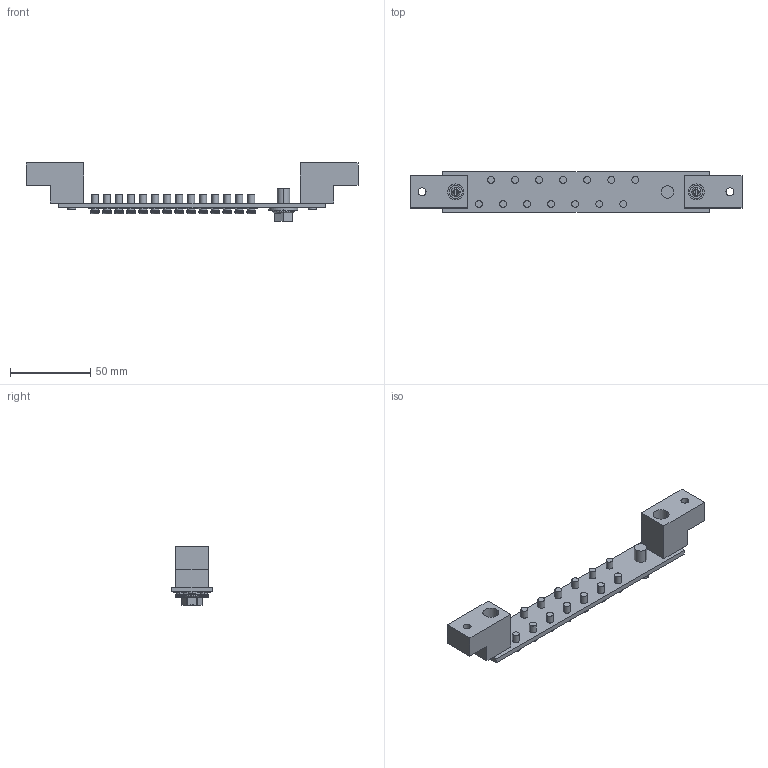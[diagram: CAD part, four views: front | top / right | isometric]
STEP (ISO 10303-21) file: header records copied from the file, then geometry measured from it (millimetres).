
FILE_DESCRIPTION(('Creo Elements/Direct Modeling STEP Export'),'2;1');
FILE_NAME('15N.stp','2025-07-23T16:23:38',(''),(''),'PTC Creo Elements/Direct Modeling STEP processor for AP214 (Solid Model)','PTC Creo Elements/Direct Modeling 19.0 09-May-2014 (C) Parametric Technology GmbH','');
FILE_SCHEMA(('AUTOMOTIVE_DESIGN { 1 0 10303 214 1 1 1 1 }'));
Length unit declared in the file: millimetre
Products named in the file (19): QUILT_3-34740.PRT; QUILT_2-34360.PRT; QUILT_1-14960.PRT; USER_LIBRARY-SAN_ZU_HE_LUO-2060.PRT; M5_1_1_1_1_1_1_1_1_2.ASM; A1.ASM; HOLD_1.PRT; CU.PRT; QUILT_3-85900.PRT; QUILT_2-85520.PRT; QUILT_1-66120.PRT; USER_LIBRARY-SAN_ZU_HE_LU-53220.PRT; M5_1_1_1_1_1_1_1_1_1_1_1_1_1_1.ASM; SCREW_1_2_PRT.PRT; SCREW_1_1_PRT.PRT; SCREW_1_ASM.ASM; SCREW_0723_STP.ASM; 17N_1.ASM; 15N
Assembly tree (33 placements, depth 5):
  15N
    17N_1.ASM
      SCREW_0723_STP.ASM
        SCREW_1_ASM.ASM
          SCREW_1_1_PRT.PRT
          SCREW_1_2_PRT.PRT
      M5_1_1_1_1_1_1_1_1_1_1_1_1_1_1.ASM  x2
        USER_LIBRARY-SAN_ZU_HE_LU-53220.PRT
        QUILT_1-66120.PRT
        QUILT_2-85520.PRT
        QUILT_3-85900.PRT
      CU.PRT
      HOLD_1.PRT  x2
      M5_1_1_1_1_1_1_1_1_2.ASM  x7
        USER_LIBRARY-SAN_ZU_HE_LUO-2060.PRT
        QUILT_1-14960.PRT
        QUILT_2-34360.PRT
        QUILT_3-34740.PRT
      A1.ASM
        M5_1_1_1_1_1_1_1_1_2.ASM  x7
          USER_LIBRARY-SAN_ZU_HE_LUO-2060.PRT
          QUILT_1-14960.PRT
          QUILT_2-34360.PRT
          QUILT_3-34740.PRT
Bounding box: 207 x 25 x 36.2 mm (x, y, z)
Volume: 40849.4 mm3; surface area: 26248.1 mm2
Topology: 37 solids, 37 shells, 748 faces, 1884 edges, 1234 vertices
Faces by surface type: plane 420, cylinder 260, torus 68
Entity records: 6750 total; most frequent: CARTESIAN_POINT 1081, DIRECTION 942, ORIENTED_EDGE 940, EDGE_CURVE 470, AXIS2_PLACEMENT_3D 349, VERTEX_POINT 310, VECTOR 244, LINE 244
